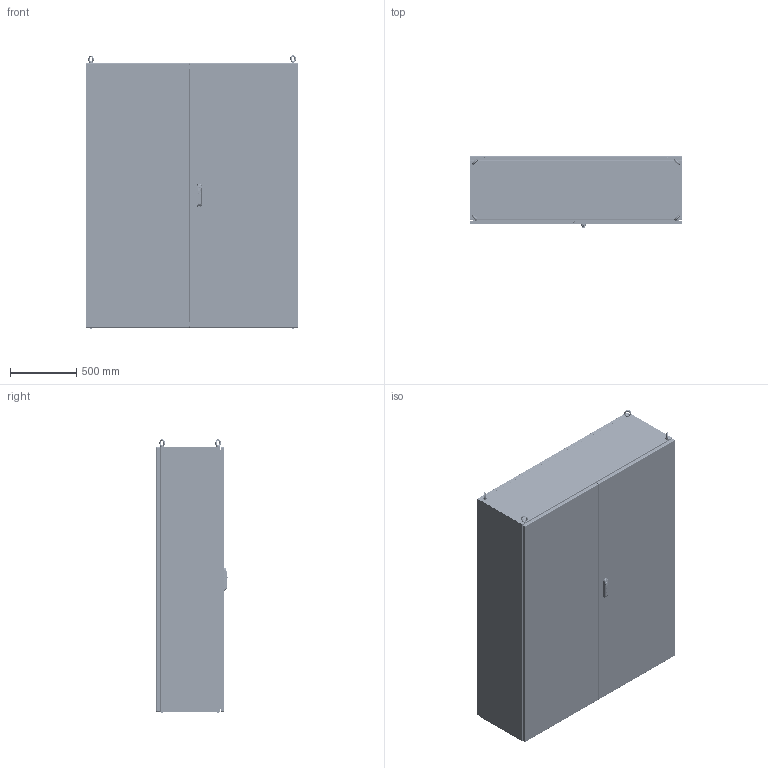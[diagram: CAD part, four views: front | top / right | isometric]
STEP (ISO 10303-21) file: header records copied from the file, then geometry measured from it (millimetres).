
FILE_DESCRIPTION(/* description */ (''),/* implementation_level */ '2;1');
FILE_NAME(/* name */ 'FCA16020050',/* time_stamp */ '2025-09-12T14:33:05+02:00',/* author */ ('INOXVENETA Spa'),/* organization */ ('www.inoxveneta.it '),/* preprocessor_version */ 'ST-DEVELOPER v19.4',/* originating_system */ 'Solid Edge',/* authorisation */ 'Unknown');
FILE_SCHEMA (('PROCESS_PLANNING_SCHEMA','AUTOMOTIVE_DESIGN {1 0 10303 214 3 1 1}'));
Products named in the file (68): FCA16020050; F000X001.67; F0000000.04; F000X001.69; F0000001.33; F0000000.03; F0000000.02; F0000000.49; F000X001.68; F0000001.32; AE00500.10; AE00715.01; M0000000.37; F000X000.12; F000X001.89; F000X001.90; F0000001.41; F0000000.07; AE00100.03_oa_0; AE00100.03_oa_1; AE00100.03_oa_2; AE00100.03_oa_3; AE00100.03_oa_4; AE00100.03_oa_5; AE00100.03_oa_6; AE00100.03_oa_7; C0000000.08; F0000000.08; F000X000.14; AE00989.12; AE00198.03; AE00219.03; F000X001.70; F000X001.72; F0000001.34; F0000000.12; AE00222.15; AE00316.01; AE00315.01; AE00992.78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
Assembly tree (295 placements, depth 4):
  FCA16020050
    F000X001.67
      F0000000.04  x2
      F000X001.69
        F0000001.33
        F0000000.03  x2
        F0000000.02  x4
        F0000000.49
      F000X001.68
        F0000001.32
        F0000000.03  x2
        F0000000.02  x4
        F0000000.49
      AE00500.10  x36
    AE00715.01  x4
    M0000000.37  x10
    F000X000.12
    F000X000.12
    F000X001.89
      F000X001.90
        F0000001.41
      F0000000.07  x4
      AE00100.03_oa_0
      AE00100.03_oa_1
      AE00100.03_oa_2
      AE00100.03_oa_3
      AE00100.03_oa_4
      AE00100.03_oa_5
      AE00100.03_oa_6
      AE00100.03_oa_7
    C0000000.08
    F0000000.08  x8
    F000X000.14
      AE00989.12
    AE00198.03  x16
    AE00219.03  x10
    F000X001.70
      F000X001.72
        F0000001.34
      F0000000.12  x8
      AE00222.15  x8
      AE00316.01  x8
      AE00315.01  x4
      AE00992.78  x2
      AE00992.31
      AE00992.18  x4
      AE00320.01  x2
      AE00636.02  x8
      AE00992.15
      AE00415.02  x2
      AE00409.01  x8
      AE00417.01  x2
      AE00322.01  x4
      F000X000.10
        F0000002.22  x2
        F0000002.17  x2
        F0000001.46  x4
    F0000000.18
    AE00701.03  x8
    C0000000.06  x4
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Bounding box: 1600 x 538.2 x 2056.95 mm (x, y, z)
Volume: 20829892.4 mm3; surface area: 25759011 mm2
Topology: 314 solids, 314 shells, 14160 faces, 37311 edges, 23829 vertices
Faces by surface type: plane 7479, cylinder 3931, torus 966, bspline 742, cone 686, sphere 356
Full cylindrical faces by diameter (mm): 0.615 x8, 0.96 x1, 2 x8, 2.24 x2, 2.6 x8, 2.88 x1, 3 x1, 3.2 x2, 3.242 x2, 3.5 x1, 4 x35, 4.134 x17, 4.25 x412, 4.5 x414, 4.8 x8, 4.917 x58, 4.918 x16, 5 x21, 5.5 x2, 6 x112, 6.1 x40, 6.2 x17, 6.5 x32, 6.8 x2, 7.5 x4, 7.8 x4, 7.827 x8, 8 x12, 8.3 x16, 8.5 x2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
Entity records: 127869 total; most frequent: CARTESIAN_POINT 30194, DIRECTION 18696, ORIENTED_EDGE 18668, EDGE_CURVE 9334, LINE 6348, VECTOR 6348, VERTEX_POINT 6317, AXIS2_PLACEMENT_3D 6174
